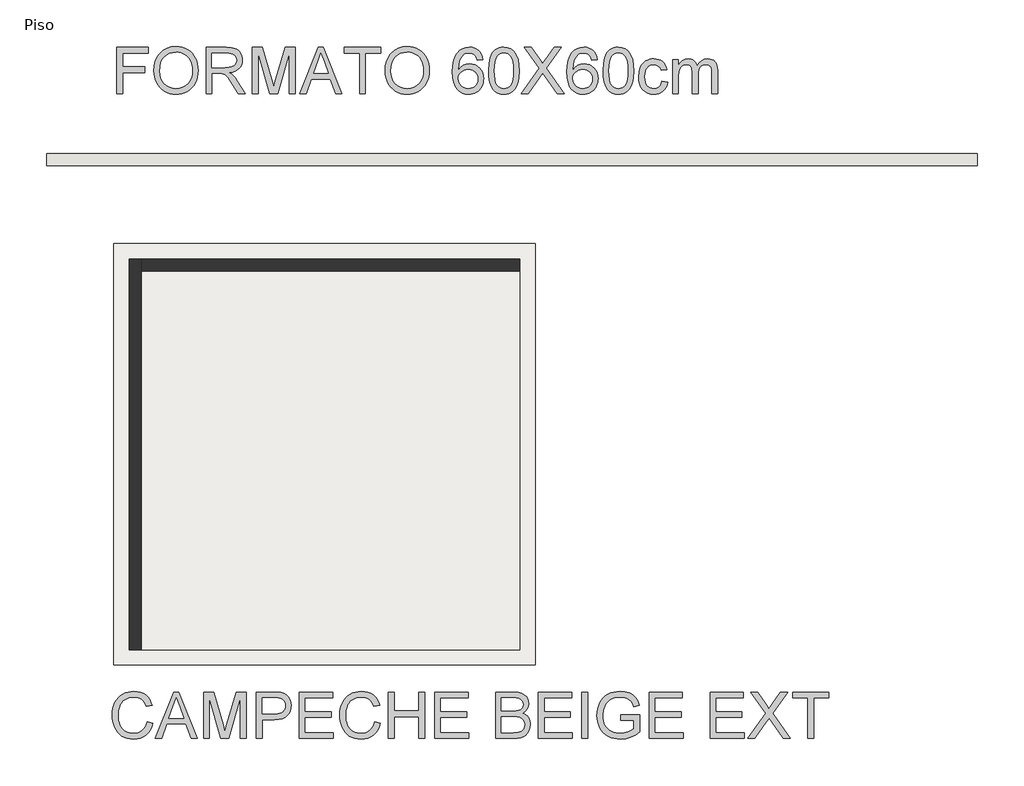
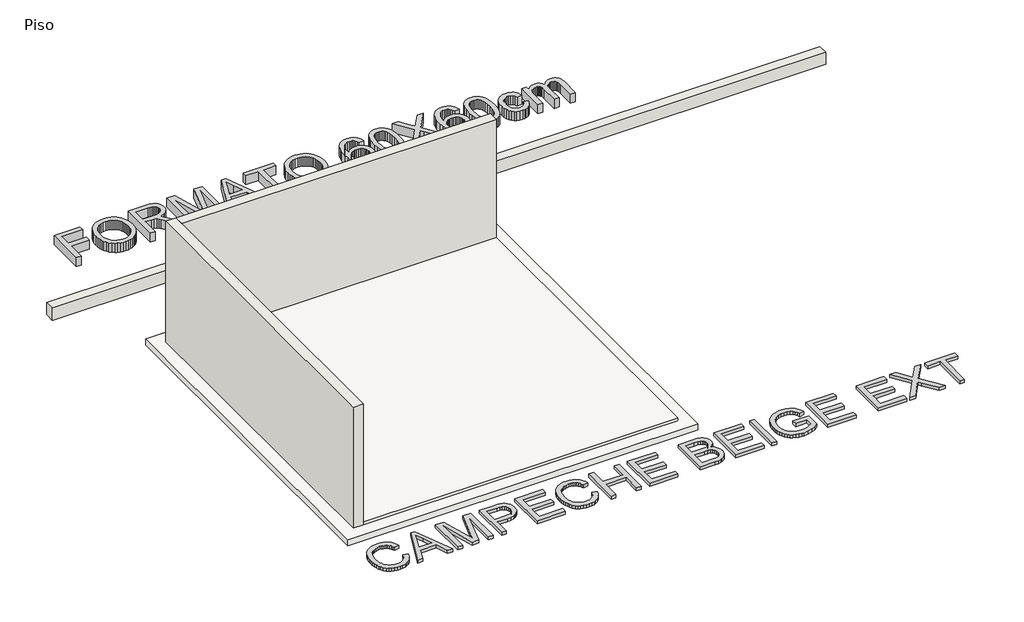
# One storey: 3 walls, 2 proxies, 2 slabs.
"""IFC4 building model written with IfcOpenShell, lengths in millimetres."""

from ifc_helpers import new_model, si_unit, frame, origin, origin_with_axes, place, context, project, spatial, polyline, outline, extrude, faceted_brep, element, save

model = new_model("IFC4")

# Units and contexts
model_context = context("Model", 3, world=origin())
ifc_project = project(units=[si_unit("LENGTHUNIT", "METRE", prefix="MILLI")], contexts=[model_context])

# Site, building, storey
site = spatial("IfcSite", under=ifc_project)
building = spatial("IfcBuilding", under=site)
storey = spatial("IfcBuildingStorey", under=building, Name="Piso", Elevation=0.0)

# Proxies
placement = place(None, origin())
element("IfcBuildingElementProxy", 1, Name="600mm Arial", ObjectType="600mm Arial", at=placement, inside=storey, context=model_context, shape_type="SweptSolid", body=[
    extrude(outline(polyline([(124992.7456073, -5470.4794853), (125068.0878399, -5489.9036547), (125053.179422, -5536.7580253), (125033.3229913, -5577.6986928), (125008.5185478, -5612.7256573), (124978.7660914, -5641.8389187), (124944.7370069, -5664.7257773), (124907.1026788, -5681.0735335), (124865.8631071, -5690.8821872), (124821.0182919, -5694.1517384), (124775.0744292, -5691.677732), (124733.6279239, -5684.2557127), (124696.6787761, -5671.8856806), (124664.2269856, -5654.5676357), (124635.8264955, -5632.5590954), (124611.0312491, -5606.117577), (124589.8412461, -5575.2430805), (124572.2564868, -5539.935606), (124558.4471164, -5501.7218638), (124548.5832804, -5462.128564), (124542.6649788, -5421.1557068), (124540.6922116, -5378.8032921), (124542.9224962, -5333.3606687), (124549.61335, -5290.9162835), (124560.7647729, -5251.4701366), (124576.3767651, -5215.0222279), (124596.0998386, -5182.1749642), (124619.5845054, -5153.5307524), (124646.8307657, -5129.0895923), (124677.8386194, -5108.8514841), (124711.5550042, -5092.9819745), (124746.9268581, -5081.6466105), (124783.9541809, -5074.8453921), (124822.6369727, -5072.5783194), (124865.7297499, -5075.5121783), (124905.2448747, -5084.313755), (124941.1823471, -5098.9830496), (124973.5421671, -5119.5200619), (125001.7909058, -5145.3821662), (125025.3951343, -5176.0267364), (125044.3548526, -5211.4537725), (125058.6700608, -5251.6632746), (124983.3278282, -5269.615916), (124971.4636338, -5239.9876198), (124957.2082065, -5214.67274), (124940.5615462, -5193.6712766), (124921.523653, -5176.9832296), (124899.9841622, -5164.2683081), (124875.8327092, -5155.1862214), (124849.069294, -5149.7369693), (124819.6939167, -5147.920552), (124785.8947584, -5149.9347059), (124754.9834738, -5155.9771677), (124726.9600628, -5166.0479373), (124701.8245255, -5180.1470147), (124679.89416, -5197.6398036), (124661.4862647, -5217.8917074), (124646.6008395, -5240.9027262), (124635.2378843, -5266.67286), (124620.8353042, -5321.8183711), (124616.0344442, -5378.6561393), (124621.718221, -5448.2594128), (124628.822942, -5479.5293824), (124638.7695515, -5508.4449072), (124651.7189977, -5534.4311717), (124667.8322291, -5556.9133601), (124687.1092457, -5575.8914725), (124709.5500474, -5591.3655089), (124734.0647838, -5603.3722576), (124759.5636046, -5611.9485066), (124786.0465097, -5617.094256), (124813.5134992, -5618.8095058), (124846.2687923, -5616.4734551), (124876.4029263, -5609.4653031), (124903.915901, -5597.7850498), (124928.8077165, -5581.4326951), (124950.4897616, -5560.4818155), (124968.3734251, -5535.0059873), (124982.458707, -5505.0052106), (124992.7456073, -5470.4794853)])), origin_with_axes(), (0.0, 0.0, 1.0), 50.0),
    extrude(outline(polyline([(125101.491525, -5684.7339593), (125342.0863499, -5081.9960984), (125406.2449698, -5081.9960984), (125646.8397947, -5684.7339593), (125567.2301309, -5684.7339593), (125498.2154686, -5496.3783778), (125249.9686983, -5496.3783778), (125181.1011888, -5684.7339593), (125101.491525, -5684.7339593)]), holes=[polyline([(125277.6334243, -5421.0361452), (125470.6978954, -5421.0361452), (125416.3985129, -5272.8532775), (125374.1656599, -5157.338331), (125336.6416963, -5259.9038313), (125277.6334243, -5421.0361452)])]), origin_with_axes(), (0.0, 0.0, 1.0), 50.0),
    extrude(outline(polyline([(125727.3323752, -5684.7339593), (125727.3323752, -5081.9960984), (125856.9739903, -5081.9960984), (125980.2880351, -5506.8262265), (126005.156858, -5595.5593637), (126032.08582, -5499.4685866), (126153.3397256, -5081.9960984), (126282.9813407, -5081.9960984), (126282.9813407, -5684.7339593), (126207.6391081, -5684.7339593), (126207.6391081, -5157.338331), (126056.2188789, -5684.7339593), (125954.094837, -5684.7339593), (125802.6746078, -5157.338331), (125802.6746078, -5684.7339593), (125727.3323752, -5684.7339593)])), origin_with_axes(), (0.0, 0.0, 1.0), 50.0),
    extrude(outline(polyline([(126414.8302478, -5684.7339593), (126414.8302478, -5081.9960984), (126638.2081953, -5081.9960984), (126690.2267094, -5083.4308382), (126728.2657077, -5087.7350576), (126768.4200275, -5098.4588177), (126801.4742247, -5115.9148184), (126828.0904871, -5140.8940059), (126848.9310021, -5174.1873264), (126862.3954831, -5213.4587294), (126866.8836435, -5256.3721641), (126863.8532155, -5293.3718958), (126854.7619317, -5327.4101774), (126839.6097921, -5358.487009), (126818.3967965, -5386.6023904), (126789.2743381, -5409.9077148), (126750.3938097, -5426.5543751), (126701.7552114, -5436.5423713), (126643.3585432, -5439.8717033), (126490.1724804, -5439.8717033), (126490.1724804, -5684.7339593), (126414.8302478, -5684.7339593)]), holes=[polyline([(126490.1724804, -5364.5294707), (126647.7731272, -5364.5294707), (126684.0095037, -5362.8004253), (126714.5804975, -5357.6132892), (126739.4861085, -5348.9680623), (126758.7263369, -5336.8647447), (126773.0829318, -5321.625233), (126783.3376424, -5303.5714241), (126789.4904687, -5282.7033179), (126791.5414109, -5259.0209145), (126786.7037626, -5225.175771), (126772.1908179, -5196.6281281), (126749.8051985, -5175.1438196), (126721.3495262, -5162.488679), (126692.2868486, -5158.625918), (126646.0072936, -5157.338331), (126490.1724804, -5157.338331), (126490.1724804, -5364.5294707)])]), origin_with_axes(), (0.0, 0.0, 1.0), 50.0),
    extrude(outline(polyline([(126970.4792133, -5684.7339593), (126970.4792133, -5081.9960984), (127403.6970508, -5081.9960984), (127403.6970508, -5157.338331), (127045.8214459, -5157.338331), (127045.8214459, -5336.2761335), (127384.8614927, -5336.2761335), (127384.8614927, -5411.6183661), (127045.8214459, -5411.6183661), (127045.8214459, -5609.3917267), (127413.1148299, -5609.3917267), (127413.1148299, -5684.7339593), (126970.4792133, -5684.7339593)])), origin_with_axes(), (0.0, 0.0, 1.0), 50.0),
    extrude(outline(polyline([(127949.9282373, -5470.4794853), (128025.2704699, -5489.9036547), (128010.362052, -5536.7580253), (127990.5056213, -5577.6986928), (127965.7011778, -5612.7256573), (127935.9487215, -5641.8389187), (127901.9196369, -5664.7257773), (127864.2853088, -5681.0735335), (127823.0457371, -5690.8821872), (127778.2009219, -5694.1517384), (127732.2570593, -5691.677732), (127690.810554, -5684.2557127), (127653.8614061, -5671.8856806), (127621.4096156, -5654.5676357), (127593.0091256, -5632.5590954), (127568.2138791, -5606.117577), (127547.0238762, -5575.2430805), (127529.4391168, -5539.935606), (127515.6297464, -5501.7218638), (127505.7659104, -5462.128564), (127499.8476088, -5421.1557068), (127497.8748416, -5378.8032921), (127500.1051262, -5333.3606687), (127506.79598, -5290.9162835), (127517.947403, -5251.4701366), (127533.5593951, -5215.0222279), (127553.2824686, -5182.1749642), (127576.7671355, -5153.5307524), (127604.0133957, -5129.0895923), (127635.0212494, -5108.8514841), (127668.7376343, -5092.9819745), (127704.1094881, -5081.6466105), (127741.1368109, -5074.8453921), (127779.8196027, -5072.5783194), (127822.9123799, -5075.5121783), (127862.4275047, -5084.313755), (127898.3649771, -5098.9830496), (127930.7247971, -5119.5200619), (127958.9735358, -5145.3821662), (127982.5777644, -5176.0267364), (128001.5374827, -5211.4537725), (128015.8526908, -5251.6632746), (127940.5104582, -5269.615916), (127928.6462639, -5239.9876198), (127914.3908365, -5214.67274), (127897.7441763, -5193.6712766), (127878.706283, -5176.9832296), (127857.1667922, -5164.2683081), (127833.0153392, -5155.1862214), (127806.2519241, -5149.7369693), (127776.8765467, -5147.920552), (127743.0773884, -5149.9347059), (127712.1661038, -5155.9771677), (127684.1426928, -5166.0479373), (127659.0071555, -5180.1470147), (127637.0767901, -5197.6398036), (127618.6688947, -5217.8917074), (127603.7834695, -5240.9027262), (127592.4205144, -5266.67286), (127578.0179343, -5321.8183711), (127573.2170742, -5378.6561393), (127578.900851, -5448.2594128), (127586.0055721, -5479.5293824), (127595.9521815, -5508.4449072), (127608.9016278, -5534.4311717), (127625.0148591, -5556.9133601), (127644.2918757, -5575.8914725), (127666.7326774, -5591.3655089), (127691.2474138, -5603.3722576), (127716.7462346, -5611.9485066), (127743.2291398, -5617.094256), (127770.6961292, -5618.8095058), (127803.4514224, -5616.4734551), (127833.5855563, -5609.4653031), (127861.098531, -5597.7850498), (127885.9903465, -5581.4326951), (127907.6723916, -5560.4818155), (127925.5560551, -5535.0059873), (127939.641337, -5505.0052106), (127949.9282373, -5470.4794853)])), origin_with_axes(), (0.0, 0.0, 1.0), 50.0),
    extrude(outline(polyline([(128128.8660397, -5684.7339593), (128128.8660397, -5081.9960984), (128204.2082723, -5081.9960984), (128204.2082723, -5326.8583544), (128524.4127609, -5326.8583544), (128524.4127609, -5081.9960984), (128599.7549936, -5081.9960984), (128599.7549936, -5684.7339593), (128524.4127609, -5684.7339593), (128524.4127609, -5402.200587), (128204.2082723, -5402.200587), (128204.2082723, -5684.7339593), (128128.8660397, -5684.7339593)])), origin_with_axes(), (0.0, 0.0, 1.0), 50.0),
    extrude(outline(polyline([(128731.6039006, -5684.7339593), (128731.6039006, -5081.9960984), (129164.8217382, -5081.9960984), (129164.8217382, -5157.338331), (128806.9461332, -5157.338331), (128806.9461332, -5336.2761335), (129145.98618, -5336.2761335), (129145.98618, -5411.6183661), (128806.9461332, -5411.6183661), (128806.9461332, -5609.3917267), (129174.2395172, -5609.3917267), (129174.2395172, -5684.7339593), (128731.6039006, -5684.7339593)])), origin_with_axes(), (0.0, 0.0, 1.0), 50.0),
    extrude(outline(polyline([(129522.6973431, -5684.7339593), (129522.6973431, -5081.9960984), (129752.6971664, -5081.9960984), (129815.9544755, -5086.4290765), (129865.3426334, -5099.7280106), (129885.4197933, -5109.7849846), (129903.1976907, -5122.2239946), (129918.6763256, -5137.0450405), (129931.8556981, -5154.2481223), (129949.90031, -5191.9192386), (129955.9151806, -5231.3561885), (129950.8568031, -5267.6477473), (129935.6816708, -5301.7688023), (129910.2794191, -5331.6224263), (129874.5396832, -5355.1116916), (129897.2793891, -5364.8053822), (129917.2323888, -5377.4053406), (129934.3986824, -5392.9115667), (129948.7782699, -5411.3240605), (129960.141225, -5432.0818021), (129968.2576215, -5454.6237713), (129973.1274594, -5478.9499683), (129974.7507387, -5505.0603929), (129970.3177607, -5547.0909108), (129957.0188266, -5586.0680082), (129937.1715929, -5619.214176), (129913.0937163, -5643.7519051), (129883.6079744, -5661.5206054), (129847.5371448, -5674.3596871), (129803.7040051, -5682.1403913), (129750.9313329, -5684.7339593), (129522.6973431, -5684.7339593)]), holes=[polyline([(129598.0395757, -5326.8583544), (129735.6274419, -5326.8583544), (129783.7464068, -5325.2396736), (129815.9728696, -5320.3836313), (129844.0974481, -5309.2184127), (129864.3125638, -5292.4981761), (129876.5078519, -5270.4804387), (129880.572948, -5243.4227179), (129876.7837634, -5217.1559435), (129865.4162098, -5194.2736834), (129846.9853218, -5176.4130125), (129822.0061343, -5165.2110057), (129783.6728304, -5159.3064997), (129725.1795932, -5157.338331), (129598.0395757, -5157.338331), (129598.0395757, -5326.8583544)]), polyline([(129598.0395757, -5609.3917267), (129752.5500136, -5609.3917267), (129808.4680769, -5606.4486708), (129834.4221517, -5599.9187653), (129855.7777015, -5590.0411338), (129873.1417317, -5575.8960711), (129887.1212475, -5556.5638722), (129896.3366915, -5532.9090599), (129899.4085061, -5505.7961569), (129895.8032626, -5474.3054581), (129884.9875319, -5447.2293432), (129866.0967915, -5426.0577344), (129838.2665185, -5412.2805537), (129798.8479627, -5404.7205787), (129745.1923737, -5402.200587), (129598.0395757, -5402.200587), (129598.0395757, -5609.3917267)])]), origin_with_axes(), (0.0, 0.0, 1.0), 50.0),
    extrude(outline(polyline([(130078.3463086, -5684.7339593), (130078.3463086, -5081.9960984), (130511.5641461, -5081.9960984), (130511.5641461, -5157.338331), (130153.6885412, -5157.338331), (130153.6885412, -5336.2761335), (130492.7285879, -5336.2761335), (130492.7285879, -5411.6183661), (130153.6885412, -5411.6183661), (130153.6885412, -5609.3917267), (130520.9819252, -5609.3917267), (130520.9819252, -5684.7339593), (130078.3463086, -5684.7339593)])), origin_with_axes(), (0.0, 0.0, 1.0), 50.0),
    extrude(outline(polyline([(130643.4130532, -5684.7339593), (130643.4130532, -5081.9960984), (130718.7552858, -5081.9960984), (130718.7552858, -5684.7339593), (130643.4130532, -5684.7339593)])), origin_with_axes(), (0.0, 0.0, 1.0), 50.0),
    extrude(outline(polyline([(131151.9731233, -5449.2894824), (131151.9731233, -5373.9472498), (131396.8353793, -5373.9472498), (131396.8353793, -5599.2381836), (131337.3304666, -5640.6249081), (131275.9493557, -5670.3129851), (131212.8391994, -5688.1920501), (131148.1471505, -5694.1517384), (131104.8704323, -5691.7834981), (131063.6262622, -5684.678777), (131024.41464, -5672.8375753), (130987.2355659, -5656.2598929), (130953.2892548, -5635.1940501), (130923.7759217, -5609.8883674), (130898.6955667, -5580.3428447), (130878.0481897, -5546.5574819), (130861.9211627, -5509.6129326), (130850.4018578, -5470.5898499), (130843.4902748, -5429.488234), (130841.1864138, -5386.3080848), (130843.4810777, -5343.1233371), (130850.3650696, -5301.4193145), (130861.8383893, -5261.1960168), (130877.9010369, -5222.4534442), (130898.2679039, -5186.8930508), (130922.6538816, -5156.216291), (130951.0589702, -5130.4231646), (130983.4831695, -5109.5136717), (131019.2229053, -5093.354455), (131057.5746033, -5081.8121574), (131098.5382635, -5074.8867789), (131142.1138858, -5072.5783194), (131204.1755784, -5077.9310024), (131259.9832771, -5093.9890515), (131284.9026837, -5105.7428812), (131306.980202, -5119.5936383), (131326.2158318, -5135.5413228), (131342.6095732, -5153.5859347), (131368.9683182, -5197.6030154), (131388.1533642, -5253.2819554), (131318.6972435, -5272.8532775), (131303.1910174, -5233.1404161), (131284.3370652, -5203.1764276), (131259.3946659, -5180.5884731), (131225.6230987, -5163.0037138), (131185.3584144, -5151.6913424), (131140.9366634, -5147.920552), (131088.9365434, -5151.985648), (131044.4780043, -5164.1809361), (131007.726593, -5182.9797061), (130978.8478564, -5206.8552476), (130956.6829662, -5234.5751559), (130940.0730941, -5264.9070264), (130922.4147583, -5321.7815829), (130916.5286464, -5383.2178761), (130918.2990785, -5420.8384086), (130923.6103748, -5455.2675648), (130932.4625353, -5486.5053447), (130944.85556, -5514.5517484), (130960.6285006, -5539.3010096), (130979.6204086, -5560.6473624), (131001.831284, -5578.5908067), (131027.2611269, -5593.1313425), (131054.7189193, -5604.365539), (131083.0136433, -5612.389965), (131112.1452988, -5617.2046206), (131142.1138858, -5618.8095058), (131194.2979468, -5613.9718576), (131245.1944209, -5599.4589128), (131289.3954426, -5579.4645264), (131321.4931467, -5558.182553), (131321.4931467, -5449.2894824), (131151.9731233, -5449.2894824)])), origin_with_axes(), (0.0, 0.0, 1.0), 50.0),
    extrude(outline(polyline([(131519.2665073, -5684.7339593), (131519.2665073, -5081.9960984), (131952.4843448, -5081.9960984), (131952.4843448, -5157.338331), (131594.6087399, -5157.338331), (131594.6087399, -5336.2761335), (131933.6487867, -5336.2761335), (131933.6487867, -5411.6183661), (131594.6087399, -5411.6183661), (131594.6087399, -5609.3917267), (131961.9021239, -5609.3917267), (131961.9021239, -5684.7339593), (131519.2665073, -5684.7339593)])), origin_with_axes(), (0.0, 0.0, 1.0), 50.0),
    extrude(outline(polyline([(132310.3599497, -5684.7339593), (132310.3599497, -5081.9960984), (132743.5777872, -5081.9960984), (132743.5777872, -5157.338331), (132385.7021823, -5157.338331), (132385.7021823, -5336.2761335), (132724.7422291, -5336.2761335), (132724.7422291, -5411.6183661), (132385.7021823, -5411.6183661), (132385.7021823, -5609.3917267), (132752.9955663, -5609.3917267), (132752.9955663, -5684.7339593), (132310.3599497, -5684.7339593)])), origin_with_axes(), (0.0, 0.0, 1.0), 50.0),
    extrude(outline(polyline([(132800.0844617, -5684.7339593), (133032.4387298, -5356.288914), (132837.755578, -5081.9960984), (132928.107396, -5081.9960984), (133037.7362306, -5236.3593836), (133063.8926404, -5275.4652397), (133074.6715829, -5296.544878), (133117.9345055, -5235.329314), (133226.3861177, -5081.9960984), (133318.0623109, -5081.9960984), (133123.3791591, -5357.1718308), (133355.7334272, -5684.7339593), (133265.3816092, -5684.7339593), (133110.5768656, -5466.359207), (133078.3504028, -5421.0361452), (133042.8865785, -5470.7737909), (132891.7606549, -5684.7339593), (132800.0844617, -5684.7339593)])), origin_with_axes(), (0.0, 0.0, 1.0), 50.0),
    extrude(outline(polyline([(133581.760125, -5684.7339593), (133581.760125, -5157.338331), (133383.9867644, -5157.338331), (133383.9867644, -5081.9960984), (133854.8757183, -5081.9960984), (133854.8757183, -5157.338331), (133657.1023577, -5157.338331), (133657.1023577, -5684.7339593), (133581.760125, -5684.7339593)])), origin_with_axes(), (0.0, 0.0, 1.0), 50.0),
])
element("IfcBuildingElementProxy", 2, Name="600mm Arial", ObjectType="600mm Arial", at=placement, inside=storey, context=model_context, shape_type="SweptSolid", body=[
    extrude(outline(polyline([(124602.0859381, 2702.6380465), (124602.0859381, 3305.3759074), (125007.0504384, 3305.3759074), (125007.0504384, 3230.0336748), (124677.4281707, 3230.0336748), (124677.4281707, 3051.0958724), (124959.961543, 3051.0958724), (124959.961543, 2975.7536397), (124677.4281707, 2975.7536397), (124677.4281707, 2702.6380465), (124602.0859381, 2702.6380465)])), origin_with_axes(), (0.0, 0.0, 1.0), 150.0),
    extrude(outline(polyline([(125082.392671, 2996.0607259), (125087.4142602, 3066.7584483), (125102.4790279, 3129.3443727), (125127.5869741, 3183.8184992), (125143.9071391, 3208.0136381), (125162.7380987, 3230.1808276), (125205.8262774, 3267.1989534), (125254.7453857, 3293.6404718), (125309.4954237, 3309.5053828), (125370.0763912, 3314.7936865), (125410.6261841, 3312.310483), (125449.134232, 3304.8608726), (125485.6005348, 3292.4448553), (125520.0250925, 3275.062431), (125551.4422148, 3253.2378317), (125578.8862117, 3227.495289), (125602.357083, 3197.8348032), (125621.8548287, 3164.2563741), (125637.1771138, 3127.5233569), (125648.1216032, 3088.3991067), (125654.6882968, 3046.8836235), (125656.8771947, 3002.9769074), (125654.5733337, 2958.4907771), (125647.6617507, 2916.4142739), (125636.1424457, 2876.7473978), (125620.0154187, 2839.4901487), (125599.6623474, 2805.6266111), (125575.4649091, 2776.1408692), (125547.423104, 2751.032923), (125515.5369321, 2730.3027726), (125481.0617906, 2714.0791766), (125445.2530769, 2702.4908937), (125408.110791, 2695.537924), (125369.6349328, 2693.2202674), (125328.3769671, 2695.7816458), (125289.3630815, 2703.465781), (125252.5932761, 2716.272673), (125218.0675508, 2734.2023217), (125186.6872166, 2756.56035), (125159.3535844, 2782.6523805), (125136.0666541, 2812.4784132), (125116.8264257, 2846.0384482), (125101.761658, 2881.9851177), (125091.0011097, 2918.9710538), (125084.5447807, 2956.9962565), (125082.392671, 2996.0607259)]), holes=[polyline([(125157.7349036, 2995.3249619), (125161.5010955, 2945.375784), (125172.7996713, 2901.0368065), (125191.6306309, 2862.3080295), (125217.9939744, 2829.1894529), (125250.0410947, 2802.665161), (125285.9233848, 2783.7192383), (125325.6408447, 2772.3516846), (125369.1934744, 2768.5625001), (125413.4910652, 2772.3884728), (125453.6775746, 2783.8663911), (125489.7530028, 2802.9962548), (125521.7173496, 2829.7780641), (125547.8875551, 2863.5956165), (125566.5805589, 2903.8327097), (125577.7963613, 2950.4893437), (125581.5349621, 3003.5655186), (125579.9346754, 3038.0452586), (125575.1338153, 3070.2625243), (125567.1323819, 3100.2173158), (125555.9303752, 3127.9096329), (125541.6519552, 3152.9761924), (125524.4212823, 3175.0537106), (125504.2383563, 3194.1421877), (125481.1031774, 3210.2416235), (125455.7331153, 3223.0209243), (125428.84554, 3232.1489963), (125400.4404514, 3237.6258395), (125370.5178496, 3239.4514539), (125328.4781346, 3235.9335823), (125289.4734461, 3225.3799676), (125253.503784, 3207.7906097), (125220.5691484, 3183.1655086), (125193.0791663, 3150.318245), (125173.4434648, 3108.0623993), (125161.6620439, 3056.3979716), (125157.7349036, 2995.3249619)])]), origin_with_axes(), (0.0, 0.0, 1.0), 150.0),
    extrude(outline(polyline([(125760.4727645, 2702.6380465), (125760.4727645, 3305.3759074), (126020.1974531, 3305.3759074), (126090.0030617, 3301.3108114), (126140.7891711, 3289.1155232), (126160.3880844, 3279.4218327), (126177.9084644, 3266.6011451), (126193.3503112, 3250.6534606), (126206.7136247, 3231.5787792), (126217.4971656, 3210.4025718), (126225.1996949, 3188.1503097), (126229.8212125, 3164.8219926), (126231.3617183, 3140.4176208), (126228.809537, 3109.4603509), (126221.152993, 3081.0414668), (126208.3920863, 3055.1609684), (126190.5268169, 3031.8188558), (126167.3272585, 3011.76009), (126138.563485, 2995.7296321), (126104.2354964, 2983.727482), (126064.3432925, 2975.7536397), (126089.1753272, 2959.5300438), (126107.1647568, 2943.527177), (126138.0300562, 2906.9229184), (126168.233168, 2865.9776524), (126268.738529, 2702.6380465), (126181.1826142, 2702.6380465), (126102.7501728, 2827.5707721), (126046.0963456, 2910.2706446), (126025.0351013, 2934.3853094), (126006.2915137, 2949.3397125), (125970.4598074, 2963.6871103), (125926.7554263, 2966.3358607), (125835.8149971, 2966.3358607), (125835.8149971, 2702.6380465), (125760.4727645, 2702.6380465)]), holes=[polyline([(125835.8149971, 3041.6780933), (126004.4521037, 3041.6780933), (126052.8837684, 3044.3452377), (126090.4629142, 3052.3466711), (126118.7530396, 3066.2158224), (126139.3176431, 3086.4861203), (126151.8440251, 3111.0054553), (126156.0194857, 3137.6217176), (126154.0283244, 3156.8895371), (126148.0548405, 3174.3731289), (126138.099034, 3190.0724931), (126124.1609049, 3203.9876296), (126105.9185565, 3215.3827744), (126083.050092, 3223.5221635), (126055.5555114, 3228.405797), (126023.4348147, 3230.0336748), (125835.8149971, 3230.0336748), (125835.8149971, 3041.6780933)])]), origin_with_axes(), (0.0, 0.0, 1.0), 150.0),
    extrude(outline(polyline([(126363.2106254, 2702.6380465), (126363.2106254, 3305.3759074), (126492.8522405, 3305.3759074), (126616.1662853, 2880.5457794), (126641.0351082, 2791.8126422), (126667.9640702, 2887.9034193), (126789.2179758, 3305.3759074), (126918.8595909, 3305.3759074), (126918.8595909, 2702.6380465), (126843.5173583, 2702.6380465), (126843.5173583, 3230.0336748), (126692.0971291, 2702.6380465), (126589.9730872, 2702.6380465), (126438.552858, 3230.0336748), (126438.552858, 2702.6380465), (126363.2106254, 2702.6380465)])), origin_with_axes(), (0.0, 0.0, 1.0), 150.0),
    extrude(outline(polyline([(126980.5166133, 2702.6380465), (127221.1114382, 3305.3759074), (127285.2700581, 3305.3759074), (127525.864883, 2702.6380465), (127446.2552192, 2702.6380465), (127377.2405569, 2890.9936281), (127128.9937866, 2890.9936281), (127060.1262771, 2702.6380465), (126980.5166133, 2702.6380465)]), holes=[polyline([(127156.6585126, 2966.3358607), (127349.7229837, 2966.3358607), (127295.4236012, 3114.5187283), (127253.1907481, 3230.0336748), (127215.6667846, 3127.4681746), (127156.6585126, 2966.3358607)])]), origin_with_axes(), (0.0, 0.0, 1.0), 150.0),
    extrude(outline(polyline([(127757.0419287, 2702.6380465), (127757.0419287, 3230.0336748), (127559.2685681, 3230.0336748), (127559.2685681, 3305.3759074), (128030.1575219, 3305.3759074), (128030.1575219, 3230.0336748), (127832.3841613, 3230.0336748), (127832.3841613, 2702.6380465), (127757.0419287, 2702.6380465)])), origin_with_axes(), (0.0, 0.0, 1.0), 150.0),
    extrude(outline(polyline([(128086.6641964, 2996.0607259), (128091.6857856, 3066.7584483), (128106.7505533, 3129.3443727), (128131.8584995, 3183.8184992), (128148.1786645, 3208.0136381), (128167.0096242, 3230.1808276), (128210.0978028, 3267.1989534), (128259.0169111, 3293.6404718), (128313.7669491, 3309.5053828), (128374.3479166, 3314.7936865), (128414.8977096, 3312.310483), (128453.4057574, 3304.8608726), (128489.8720602, 3292.4448553), (128524.2966179, 3275.062431), (128555.7137403, 3253.2378317), (128583.1577371, 3227.495289), (128606.6286084, 3197.8348032), (128626.1263541, 3164.2563741), (128641.4486392, 3127.5233569), (128652.3931286, 3088.3991067), (128658.9598222, 3046.8836235), (128661.1487201, 3002.9769074), (128658.8448591, 2958.4907771), (128651.9332761, 2916.4142739), (128640.4139711, 2876.7473978), (128624.2869442, 2839.4901487), (128603.9338728, 2805.6266111), (128579.7364345, 2776.1408692), (128551.6946295, 2751.032923), (128519.8084575, 2730.3027726), (128485.3333161, 2714.0791766), (128449.5246024, 2702.4908937), (128412.3823164, 2695.537924), (128373.9064582, 2693.2202674), (128332.6484925, 2695.7816458), (128293.6346069, 2703.465781), (128256.8648015, 2716.272673), (128222.3390762, 2734.2023217), (128190.958742, 2756.56035), (128163.6251098, 2782.6523805), (128140.3381795, 2812.4784132), (128121.0979512, 2846.0384482), (128106.0331835, 2881.9851177), (128095.2726351, 2918.9710538), (128088.8163061, 2956.9962565), (128086.6641964, 2996.0607259)]), holes=[polyline([(128162.006429, 2995.3249619), (128165.7726209, 2945.375784), (128177.0711967, 2901.0368065), (128195.9021564, 2862.3080295), (128222.2654998, 2829.1894529), (128254.3126201, 2802.665161), (128290.1949102, 2783.7192383), (128329.9123701, 2772.3516846), (128373.4649998, 2768.5625001), (128417.7625906, 2772.3884728), (128457.9491, 2783.8663911), (128494.0245282, 2802.9962548), (128525.988875, 2829.7780641), (128552.1590805, 2863.5956165), (128570.8520844, 2903.8327097), (128582.0678867, 2950.4893437), (128585.8064875, 3003.5655186), (128584.2062008, 3038.0452586), (128579.4053407, 3070.2625243), (128571.4039074, 3100.2173158), (128560.2019006, 3127.9096329), (128545.9234807, 3152.9761924), (128528.6928077, 3175.0537106), (128508.5098818, 3194.1421877), (128485.3747028, 3210.2416235), (128460.0046407, 3223.0209243), (128433.1170654, 3232.1489963), (128404.7119768, 3237.6258395), (128374.789375, 3239.4514539), (128332.74966, 3235.9335823), (128293.7449715, 3225.3799676), (128257.7753094, 3207.7906097), (128224.8406738, 3183.1655086), (128197.3506917, 3150.318245), (128177.7149902, 3108.0623993), (128165.9335693, 3056.3979716), (128162.006429, 2995.3249619)])]), origin_with_axes(), (0.0, 0.0, 1.0), 150.0),
    extrude(outline(polyline([(129358.0643717, 3145.2736631), (129282.7221391, 3135.855884), (129270.5820333, 3173.1959066), (129254.1744963, 3198.6901288), (129237.9784915, 3212.4029302), (129219.9982589, 3222.1977883), (129200.2337988, 3228.0747032), (129178.6851109, 3230.0336748), (129143.6627449, 3225.4719381), (129110.7005182, 3211.7867278), (129082.3919987, 3182.9631735), (129059.2706153, 3143.2871003), (129050.2345137, 3117.9814176), (129043.6540246, 3087.166702), (129037.8598831, 3009.0101721), (129068.081389, 3044.2716613), (129104.2993715, 3069.1220901), (129144.4904794, 3083.855764), (129186.631362, 3088.7669887), (129222.8309503, 3085.4100655), (129256.2346355, 3075.3392958), (129286.8424175, 3058.5546798), (129314.6542963, 3035.0562174), (129337.7664827, 3006.2418601), (129354.2751872, 2973.5095596), (129364.1804099, 2936.8593158), (129367.4821508, 2896.2911288), (129365.9278494, 2868.8241393), (129361.2649451, 2842.3412342), (129353.4934379, 2816.8424134), (129342.6133279, 2792.3276769), (129329.0108912, 2769.7121313), (129313.0724037, 2749.9108829), (129294.7978656, 2732.9239318), (129274.1872768, 2718.7512779), (129251.6820958, 2707.5814608), (129227.7237808, 2699.6030201), (129202.312332, 2694.8159556), (129175.4477493, 2693.2202674), (129130.5339562, 2697.4509104), (129089.9703678, 2710.1428392), (129053.7569839, 2731.2960539), (129021.8938045, 2760.9105546), (128995.9167372, 2800.2371398), (128977.361689, 2850.5266086), (128966.2286602, 2911.7789608), (128962.5176505, 2983.9941964), (128966.6379289, 3064.9558265), (128978.9987639, 3134.0532623), (128999.6001556, 3191.2865037), (129012.9910603, 3215.4540515), (129028.4421041, 3236.6555507), (129059.7028766, 3266.7207068), (129095.9484502, 3288.1958182), (129137.1788248, 3301.0808851), (129183.3940004, 3305.3759074), (129218.0944696, 3302.71796), (129249.502395, 3294.7441178), (129277.6177764, 3281.4543807), (129302.4406141, 3262.8487488), (129323.2995232, 3239.5526214), (129339.5231192, 3212.191398), (129351.111402, 3180.7650786), (129358.0643717, 3145.2736631)]), holes=[polyline([(129037.8598831, 2897.4683512), (129042.2192848, 2864.0830601), (129055.2974897, 2832.2060852), (129075.6045758, 2804.7988766), (129101.6506211, 2784.8228842), (129133.0861376, 2772.6275961), (129169.5616374, 2768.5625001), (129195.7502369, 2770.6686245), (129219.2808891, 2776.9869978), (129240.1535938, 2787.5176199), (129258.368351, 2802.2604908), (129273.1434117, 2820.6178024), (129283.6970264, 2841.9917463), (129290.0291953, 2866.3823226), (129292.1399182, 2893.7895312), (129290.0567864, 2920.1252835), (129283.807391, 2943.5087829), (129273.391732, 2963.9400292), (129258.8098094, 2981.4190225), (129240.5398699, 2995.4215309), (129219.0601599, 3005.4233227), (129194.3706795, 3011.4243977), (129166.4714287, 3013.4247561), (129140.632317, 3011.4243977), (129116.8257534, 3005.4233227), (129095.0517378, 2995.4215309), (129075.3102702, 2981.4190225), (129058.9257259, 2964.1699554), (129047.2224799, 2944.4284879), (129040.2005323, 2922.1946198), (129037.8598831, 2897.4683512)])]), origin_with_axes(), (0.0, 0.0, 1.0), 150.0),
    extrude(outline(polyline([(129433.4066044, 2999.1509346), (129438.9432284, 3095.6279879), (129445.8640084, 3136.5410643), (129455.5531005, 3172.5705072), (129467.9691178, 3204.0106222), (129483.0706737, 3231.1557149), (129500.8577682, 3254.0057853), (129521.3304012, 3272.5608335), (129544.5575507, 3286.9174283), (129570.6081945, 3297.1721389), (129599.4823325, 3303.3249653), (129631.179965, 3305.3759074), (129677.6066727, 3300.5198651), (129719.1773382, 3285.9517381), (129753.9421867, 3262.2417435), (129779.9514438, 3229.9600984), (129799.5963424, 3189.3827143), (129815.2681153, 3140.7855028), (129825.532023, 3079.0732981), (129828.9533256, 2999.1509346), (129823.4718838, 2903.2257044), (129816.6200817, 2862.4505838), (129807.0275587, 2826.4671261), (129794.7081103, 2795.0132155), (129779.6755323, 2767.8267361), (129761.9298246, 2744.9076878), (129741.4709871, 2726.2560706), (129718.2162465, 2711.8029067), (129692.0828293, 2701.4792182), (129663.0707354, 2695.2850051), (129631.179965, 2693.2202674), (129589.6828759, 2696.8071169), (129552.8946764, 2707.5676653), (129520.8153664, 2725.5019125), (129493.444946, 2750.6098587), (129467.1781715, 2795.9972999), (129448.4161898, 2852.5499596), (129437.1590007, 2920.2678378), (129433.4066044, 2999.1509346)]), holes=[polyline([(129508.748837, 2999.2980874), (129510.9561289, 2933.8012967), (129517.5780048, 2880.7849027), (129528.6144647, 2840.2489053), (129544.0655085, 2812.1933047), (129562.7539139, 2793.1048277), (129583.5024584, 2779.4702012), (129606.3111421, 2771.2894253), (129631.179965, 2768.5625001), (129656.0487878, 2771.2986224), (129678.8574715, 2779.5069894), (129699.6060161, 2793.1876011), (129718.2944214, 2812.3404575), (129733.7454652, 2840.4420434), (129744.7819251, 2880.9688437), (129751.403801, 2933.9208584), (129753.611093, 2999.2980874), (129751.4773774, 3063.0612342), (129745.0762307, 3115.1441277), (129734.4076528, 3155.5467678), (129719.4716438, 3184.2691546), (129701.0959381, 3204.2911322), (129680.1082703, 3218.5925448), (129656.5086403, 3227.1733923), (129630.2970482, 3230.0336748), (129605.556984, 3227.5136831), (129583.1345764, 3219.9537081), (129563.0298254, 3207.3537498), (129545.2427309, 3189.7138081), (129529.2766523, 3158.4438385), (129517.8723104, 3116.2845619), (129511.0297053, 3063.2359782), (129508.748837, 2999.2980874)])]), origin_with_axes(), (0.0, 0.0, 1.0), 150.0),
    extrude(outline(polyline([(129857.2066628, 2702.6380465), (130089.5609309, 3031.0830918), (129894.8777791, 3305.3759074), (129985.2295971, 3305.3759074), (130094.8584317, 3151.0126222), (130121.0148415, 3111.9067662), (130131.793784, 3090.8271278), (130175.0567066, 3152.0426918), (130283.5083188, 3305.3759074), (130375.184512, 3305.3759074), (130180.5013602, 3030.200175), (130412.8556283, 2702.6380465), (130322.5038103, 2702.6380465), (130167.6990667, 2921.0127989), (130135.4726039, 2966.3358607), (130100.0087796, 2916.5982149), (129948.882856, 2702.6380465), (129857.2066628, 2702.6380465)])), origin_with_axes(), (0.0, 0.0, 1.0), 150.0),
    extrude(outline(polyline([(130846.0734658, 3145.2736631), (130770.7312332, 3135.855884), (130758.5911274, 3173.1959066), (130742.1835904, 3198.6901288), (130725.9875856, 3212.4029302), (130708.007353, 3222.1977883), (130688.2428928, 3228.0747032), (130666.694205, 3230.0336748), (130631.671839, 3225.4719381), (130598.7096123, 3211.7867278), (130570.4010927, 3182.9631735), (130547.2797093, 3143.2871003), (130538.2436078, 3117.9814176), (130531.6631187, 3087.166702), (130525.8689772, 3009.0101721), (130556.0904831, 3044.2716613), (130592.3084656, 3069.1220901), (130632.4995735, 3083.855764), (130674.6404561, 3088.7669887), (130710.8400444, 3085.4100655), (130744.2437296, 3075.3392958), (130774.8515116, 3058.5546798), (130802.6633904, 3035.0562174), (130825.7755767, 3006.2418601), (130842.2842813, 2973.5095596), (130852.189504, 2936.8593158), (130855.4912449, 2896.2911288), (130853.9369435, 2868.8241393), (130849.2740392, 2842.3412342), (130841.502532, 2816.8424134), (130830.622422, 2792.3276769), (130817.0199853, 2769.7121313), (130801.0814978, 2749.9108829), (130782.8069597, 2732.9239318), (130762.1963709, 2718.7512779), (130739.6911899, 2707.5814608), (130715.7328749, 2699.6030201), (130690.3214261, 2694.8159556), (130663.4568434, 2693.2202674), (130618.5430503, 2697.4509104), (130577.9794618, 2710.1428392), (130541.7660779, 2731.2960539), (130509.9028986, 2760.9105546), (130483.9258313, 2800.2371398), (130465.3707831, 2850.5266086), (130454.2377542, 2911.7789608), (130450.5267446, 2983.9941964), (130454.647023, 3064.9558265), (130467.007858, 3134.0532623), (130487.6092497, 3191.2865037), (130501.0001544, 3215.4540515), (130516.4511982, 3236.6555507), (130547.7119707, 3266.7207068), (130583.9575443, 3288.1958182), (130625.1879189, 3301.0808851), (130671.4030945, 3305.3759074), (130706.1035637, 3302.71796), (130737.5114891, 3294.7441178), (130765.6268705, 3281.4543807), (130790.4497082, 3262.8487488), (130811.3086173, 3239.5526214), (130827.5322133, 3212.191398), (130839.1204961, 3180.7650786), (130846.0734658, 3145.2736631)]), holes=[polyline([(130525.8689772, 2897.4683512), (130530.2283789, 2864.0830601), (130543.3065838, 2832.2060852), (130563.6136699, 2804.7988766), (130589.6597152, 2784.8228842), (130621.0952317, 2772.6275961), (130657.5707315, 2768.5625001), (130683.759331, 2770.6686245), (130707.2899831, 2776.9869978), (130728.1626879, 2787.5176199), (130746.3774451, 2802.2604908), (130761.1525058, 2820.6178024), (130771.7061205, 2841.9917463), (130778.0382893, 2866.3823226), (130780.1490123, 2893.7895312), (130778.0658805, 2920.1252835), (130771.8164851, 2943.5087829), (130761.4008261, 2963.9400292), (130746.8189035, 2981.4190225), (130728.5489639, 2995.4215309), (130707.069254, 3005.4233227), (130682.3797736, 3011.4243977), (130654.4805227, 3013.4247561), (130628.6414111, 3011.4243977), (130604.8348475, 3005.4233227), (130583.0608319, 2995.4215309), (130563.3193643, 2981.4190225), (130546.93482, 2964.1699554), (130535.231574, 2944.4284879), (130528.2096264, 2922.1946198), (130525.8689772, 2897.4683512)])]), origin_with_axes(), (0.0, 0.0, 1.0), 150.0),
    extrude(outline(polyline([(130921.4156984, 2999.1509346), (130926.9523225, 3095.6279879), (130933.8731025, 3136.5410643), (130943.5621946, 3172.5705072), (130955.9782119, 3204.0106222), (130971.0797678, 3231.1557149), (130988.8668623, 3254.0057853), (131009.3394953, 3272.5608335), (131032.5666448, 3286.9174283), (131058.6172885, 3297.1721389), (131087.4914266, 3303.3249653), (131119.189059, 3305.3759074), (131165.6157668, 3300.5198651), (131207.1864323, 3285.9517381), (131241.9512808, 3262.2417435), (131267.9605379, 3229.9600984), (131287.6054364, 3189.3827143), (131303.2772094, 3140.7855028), (131313.5411171, 3079.0732981), (131316.9624197, 2999.1509346), (131311.4809779, 2903.2257044), (131304.6291758, 2862.4505838), (131295.0366527, 2826.4671261), (131282.7172044, 2795.0132155), (131267.6846264, 2767.8267361), (131249.9389187, 2744.9076878), (131229.4800812, 2726.2560706), (131206.2253406, 2711.8029067), (131180.0919234, 2701.4792182), (131151.0798295, 2695.2850051), (131119.189059, 2693.2202674), (131077.69197, 2696.8071169), (131040.9037705, 2707.5676653), (131008.8244605, 2725.5019125), (130981.4540401, 2750.6098587), (130955.1872656, 2795.9972999), (130936.4252838, 2852.5499596), (130925.1680948, 2920.2678378), (130921.4156984, 2999.1509346)]), holes=[polyline([(130996.7579311, 2999.2980874), (130998.965223, 2933.8012967), (131005.5870989, 2880.7849027), (131016.6235588, 2840.2489053), (131032.0746026, 2812.1933047), (131050.7630079, 2793.1048277), (131071.5115525, 2779.4702012), (131094.3202362, 2771.2894253), (131119.189059, 2768.5625001), (131144.0578819, 2771.2986224), (131166.8665656, 2779.5069894), (131187.6151102, 2793.1876011), (131206.3035155, 2812.3404575), (131221.7545593, 2840.4420434), (131232.7910192, 2880.9688437), (131239.4128951, 2933.9208584), (131241.620187, 2999.2980874), (131239.4864715, 3063.0612342), (131233.0853248, 3115.1441277), (131222.4167469, 3155.5467678), (131207.4807379, 3184.2691546), (131189.1050322, 3204.2911322), (131168.1173644, 3218.5925448), (131144.5177344, 3227.1733923), (131118.3061423, 3230.0336748), (131093.5660781, 3227.5136831), (131071.1436705, 3219.9537081), (131051.0389194, 3207.3537498), (131033.251825, 3189.7138081), (131017.2857464, 3158.4438385), (131005.8814045, 3116.2845619), (130999.0387994, 3063.2359782), (130996.7579311, 2999.2980874)])]), origin_with_axes(), (0.0, 0.0, 1.0), 150.0),
    extrude(outline(polyline([(131684.2558036, 2862.7402908), (131759.5980363, 2853.3225117), (131751.4034648, 2817.7713154), (131738.5919743, 2786.3128063), (131721.1635648, 2758.9469844), (131699.1182362, 2735.6738497), (131673.3848907, 2717.1004075), (131644.8924302, 2703.833663), (131613.6408547, 2695.8736163), (131579.6301642, 2693.2202674), (131537.3743185, 2696.92208), (131499.4870716, 2708.0275178), (131465.9684233, 2726.5365806), (131436.8183737, 2752.4492687), (131413.2233422, 2785.2781382), (131396.3697483, 2824.5357456), (131386.257592, 2870.2220909), (131382.8868732, 2922.337174), (131388.6442264, 2989.3836677), (131395.8409179, 3019.5545898), (131405.9162861, 3047.4906288), (131418.9393087, 3072.6307646), (131434.9789637, 3094.4139773), (131454.0352511, 3112.8402667), (131476.1081708, 3127.9096329), (131500.1998429, 3139.6266745), (131525.3123876, 3147.9959899), (131551.4458049, 3153.0175791), (131578.6000946, 3154.6914422), (131612.0267724, 3152.3921797), (131642.2620739, 3145.4943923), (131669.3059991, 3133.99808), (131693.1585479, 3117.9032427), (131713.4150503, 3097.5777624), (131729.6708359, 3073.3895213), (131741.9259049, 3045.3385191), (131750.1802572, 3013.4247561), (131674.8380246, 3004.006977), (131661.1712084, 3036.8772332), (131639.889235, 3060.440075), (131612.1693267, 3074.6219259), (131579.1887058, 3079.3492096), (131553.5887175, 3077.022356), (131530.4995238, 3070.0417951), (131509.9211247, 3058.407527), (131491.8535202, 3042.1195517), (131477.1428389, 3020.8007901), (131466.6352094, 2994.0741631), (131460.3306317, 2961.9396708), (131458.2291058, 2924.3973132), (131460.2846465, 2886.289337), (131466.4512684, 2853.7823642), (131476.7289716, 2826.8763948), (131491.1177562, 2805.5714288), (131508.8266757, 2789.3800225), (131529.064784, 2777.8147322), (131551.832081, 2770.8755581), (131577.1285666, 2768.5625001), (131616.1424522, 2774.3382474), (131633.0144402, 2781.5579315), (131648.1297917, 2791.6654894), (131661.0654424, 2804.7712854), (131671.3983279, 2820.9856844), (131679.1284483, 2840.3086862), (131684.2558036, 2862.7402908)])), origin_with_axes(), (0.0, 0.0, 1.0), 150.0),
    extrude(outline(polyline([(131825.5224898, 2702.6380465), (131825.5224898, 3145.2736631), (131900.8647224, 3145.2736631), (131900.8647224, 3072.4330281), (131923.5262533, 3105.8918955), (131952.6625073, 3132.1034877), (131987.2802031, 3149.0444536), (132026.3860592, 3154.6914422), (132068.2878184, 3148.934089), (132086.1208981, 3141.7373974), (132101.8754446, 3131.6620293), (132126.9649966, 3104.0156974), (132143.3725336, 3067.1355273), (132170.8349246, 3105.4412401), (132202.1600765, 3132.8024635), (132237.3479893, 3149.2191975), (132276.3986631, 3154.6914422), (132306.5603882, 3152.4151724), (132333.0340962, 3145.5863628), (132355.8197873, 3134.2050136), (132374.9174614, 3118.2711247), (132390.0144188, 3097.6007551), (132400.7979597, 3072.0099638), (132407.2680843, 3041.4987508), (132409.4247925, 3006.0671161), (132409.4247925, 2702.6380465), (132334.0825599, 2702.6380465), (132334.0825599, 2973.6935006), (132332.3351204, 3011.2726464), (132327.092802, 3036.6013217), (132317.2703527, 3053.9469578), (132301.7825207, 3067.5769857), (132281.8617107, 3076.4061536), (132258.7403273, 3079.3492096), (132237.389376, 3077.4638144), (132217.9238199, 3071.8076287), (132200.3436591, 3062.3806526), (132184.6488935, 3049.182886), (132171.740834, 3031.8280529), (132162.5207915, 3009.9298771), (132156.988766, 2983.4883587), (132155.1447575, 2952.5034976), (132155.1447575, 2702.6380465), (132079.8025249, 2702.6380465), (132079.8025249, 2982.0812101), (132075.4431232, 3024.6819451), (132069.9938712, 3041.4021818), (132062.3649183, 3055.0689979), (132052.2527619, 3065.6915905), (132039.3538995, 3073.2791567), (132023.6683309, 3077.8316964), (132005.1960562, 3079.3492096), (131976.1701668, 3075.3025076), (131949.4251458, 3063.1624018), (131927.3522261, 3043.2231977), (131912.3426407, 3015.7792008), (131903.734202, 2977.7034143), (131900.8647224, 2925.8688412), (131900.8647224, 2702.6380465), (131825.5224898, 2702.6380465)])), origin_with_axes(), (0.0, 0.0, 1.0), 150.0),
])

# Slabs
element("IfcSlab", 3, ObjectType="5cm - Porcelanato CAMPECHE BEIGE EXT  - Externo 60X60", at=placement, inside=storey, context=model_context, shape_type="SweptSolid", body=[
    extrude(outline(polyline([(129838.6357757, 391.3996719), (129838.6357757, -4529.2003281), (124918.0357757, -4529.2003281), (124918.0357757, 391.3996719), (129838.6357757, 391.3996719)])), origin_with_axes(), (0.0, 0.0, 1.0), 50.0),
])
element("IfcSlab", 4, ObjectType="CO02 - Concreto Estrutural Simples", at=placement, inside=storey, context=model_context, shape_type="SweptSolid", body=[
    extrude(outline(polyline([(130038.6357757, 750.1996719), (130038.6357757, -4729.2003281), (124559.2357757, -4729.2003281), (124559.2357757, 750.1996719), (130038.6357757, 750.1996719)])), frame((0.0, 0.0, -100.0), z_axis=(0.0, 0.0, 1.0), x_axis=(1.0, 0.0, 0.0)), (0.0, 0.0, 1.0), 100.0),
])

# Walls
element("IfcWall", 5, ObjectType="CO01 - Bloco de Concreto 14cm / Pintura Branca Simples", at=placement, inside=storey, context=model_context, shape_type="Brep", body=[
    faceted_brep([(124918.0357757, -4529.2003281, 0.0), (124918.0357757, 391.3996719, 0.0), (124918.0357757, 550.1996719, 0.0), (124918.0357757, 550.1996719, 2000.0), (124918.0357757, 391.3996719, 2000.0), (124918.0357757, -4529.2003281, 2000.0), (124759.2357757, -4529.2003281, 0.0), (124759.2357757, -4529.2003281, 2000.0), (124759.2357757, 550.1996719, 2000.0), (124759.2357757, 550.1996719, 0.0)], [[[0, 1, 2, 3, 4, 5]], [[6, 7, 8, 9]], [[2, 1, 0, 6, 9]], [[5, 4, 3, 8, 7]], [[0, 5, 7, 6]], [[3, 2, 9, 8]]]),
])
element("IfcWall", 6, ObjectType="CO01 - Bloco de Concreto 14cm / Pintura Branca Simples", at=placement, inside=storey, context=model_context, shape_type="SweptSolid", body=[
    extrude(outline(polyline([(129838.6357757, 391.3996719), (124918.0357757, 391.3996719), (124918.0357757, 550.1996719), (129838.6357757, 550.1996719), (129838.6357757, 391.3996719)])), origin_with_axes(), (0.0, 0.0, 1.0), 2000.0),
])
element("IfcWall", 7, ObjectType="CO01 - Bloco de Concreto 14cm / Pintura Branca Simples", at=placement, inside=storey, context=model_context, shape_type="SweptSolid", body=[
    extrude(outline(polyline([(135786.699165, 1765.7486968), (123686.699165, 1765.7486968), (123686.699165, 1924.5486968), (135786.699165, 1924.5486968), (135786.699165, 1765.7486968)])), origin_with_axes(), (0.0, 0.0, 1.0), 200.0),
])

save(model, "model.ifc")
